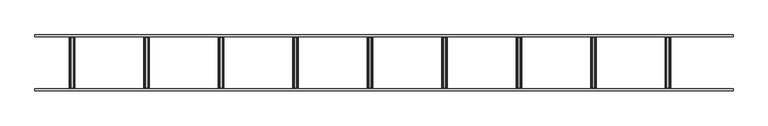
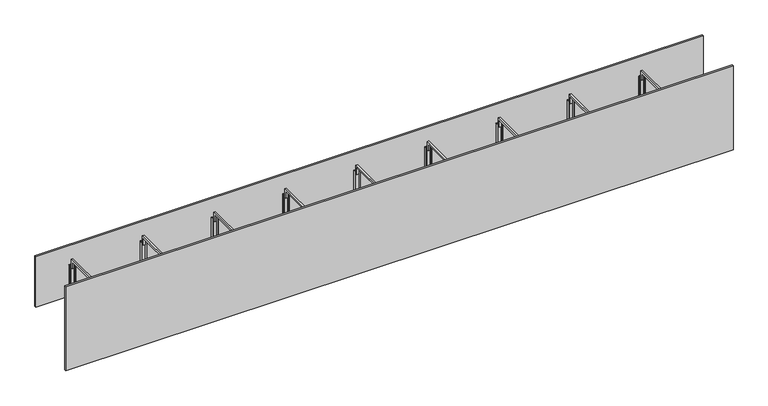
"""IFC4 building model written with IfcOpenShell, lengths in millimetres: proxy geometry, Betobeam AT : -."""

from ifc_helpers import new_model, si_unit, frame, origin, origin_with_axes, place, context, project, spatial, polyline, outline, extrude, faceted_brep, source, transform, mapped, element, save


def generic_models_3c8a262e(model_context):
    return source(origin(), model_context, "Body", "SolidModel", [
        extrude(outline(polyline([(-285.0, 420.0), (-15.0, 420.0), (-15.0, 370.0), (-25.0, 370.0), (-25.0, 410.0), (-275.0, 410.0), (-275.0, 370.0), (-285.0, 370.0), (-285.0, 420.0)])), frame((3395.0, 0.0, 0.0), z_axis=(1.0, 0.0, 0.0), x_axis=(0.0, 1.0, 0.0)), (0.0, 0.0, 1.0), 10.0),
        faceted_brep([(3385.0, -290.0, 390.0), (3415.0, -290.0, 390.0), (3415.0, -275.0, 390.0), (3413.0, -275.0, 390.0), (3413.0, -288.0, 390.0), (3387.0, -288.0, 390.0), (3387.0, -275.0, 390.0), (3385.0, -275.0, 390.0), (3385.0, -275.0, 15.0), (3385.0, -25.0, 15.0), (3385.0, -25.0, 390.0), (3385.0, -10.0, 390.0), (3385.0, -10.0, 0.0), (3385.0, -290.0, 0.0), (3387.0, -275.0, 15.0), (3387.0, -288.0, 2.0), (3387.0, -12.0, 2.0), (3387.0, -12.0, 390.0), (3387.0, -25.0, 390.0), (3387.0, -25.0, 15.0), (3413.0, -288.0, 2.0), (3413.0, -275.0, 15.0), (3413.0, -25.0, 15.0), (3413.0, -25.0, 390.0), (3413.0, -12.0, 390.0), (3413.0, -12.0, 2.0), (3415.0, -275.0, 15.0), (3415.0, -290.0, 0.0), (3415.0, -10.0, 0.0), (3415.0, -10.0, 390.0), (3415.0, -25.0, 390.0), (3415.0, -25.0, 15.0)], [[[0, 1, 2, 3, 4, 5, 6, 7]], [[7, 8, 9, 10, 11, 12, 13, 0]], [[6, 14, 8, 7]], [[5, 15, 16, 17, 18, 19, 14, 6]], [[4, 20, 15, 5]], [[3, 21, 22, 23, 24, 25, 20, 4]], [[2, 26, 21, 3]], [[1, 27, 28, 29, 30, 31, 26, 2]], [[0, 13, 27, 1]], [[14, 19, 9, 8]], [[20, 25, 16, 15]], [[26, 31, 22, 21]], [[13, 12, 28, 27]], [[11, 10, 18, 17, 24, 23, 30, 29]], [[19, 18, 10, 9]], [[25, 24, 17, 16]], [[31, 30, 23, 22]], [[12, 11, 29, 28]]]),
        extrude(outline(polyline([(-285.0, 420.0), (-15.0, 420.0), (-15.0, 370.0), (-25.0, 370.0), (-25.0, 410.0), (-275.0, 410.0), (-275.0, 370.0), (-285.0, 370.0), (-285.0, 420.0)])), frame((2995.0, 0.0, 0.0), z_axis=(1.0, 0.0, 0.0), x_axis=(0.0, 1.0, 0.0)), (0.0, 0.0, 1.0), 10.0),
        faceted_brep([(2985.0, -290.0, 390.0), (3015.0, -290.0, 390.0), (3015.0, -275.0, 390.0), (3013.0, -275.0, 390.0), (3013.0, -288.0, 390.0), (2987.0, -288.0, 390.0), (2987.0, -275.0, 390.0), (2985.0, -275.0, 390.0), (2985.0, -275.0, 15.0), (2985.0, -25.0, 15.0), (2985.0, -25.0, 390.0), (2985.0, -10.0, 390.0), (2985.0, -10.0, 0.0), (2985.0, -290.0, 0.0), (2987.0, -275.0, 15.0), (2987.0, -288.0, 2.0), (2987.0, -12.0, 2.0), (2987.0, -12.0, 390.0), (2987.0, -25.0, 390.0), (2987.0, -25.0, 15.0), (3013.0, -288.0, 2.0), (3013.0, -275.0, 15.0), (3013.0, -25.0, 15.0), (3013.0, -25.0, 390.0), (3013.0, -12.0, 390.0), (3013.0, -12.0, 2.0), (3015.0, -275.0, 15.0), (3015.0, -290.0, 0.0), (3015.0, -10.0, 0.0), (3015.0, -10.0, 390.0), (3015.0, -25.0, 390.0), (3015.0, -25.0, 15.0)], [[[0, 1, 2, 3, 4, 5, 6, 7]], [[7, 8, 9, 10, 11, 12, 13, 0]], [[6, 14, 8, 7]], [[5, 15, 16, 17, 18, 19, 14, 6]], [[4, 20, 15, 5]], [[3, 21, 22, 23, 24, 25, 20, 4]], [[2, 26, 21, 3]], [[1, 27, 28, 29, 30, 31, 26, 2]], [[0, 13, 27, 1]], [[14, 19, 9, 8]], [[20, 25, 16, 15]], [[26, 31, 22, 21]], [[13, 12, 28, 27]], [[11, 10, 18, 17, 24, 23, 30, 29]], [[19, 18, 10, 9]], [[25, 24, 17, 16]], [[31, 30, 23, 22]], [[12, 11, 29, 28]]]),
        extrude(outline(polyline([(-285.0, 420.0), (-15.0, 420.0), (-15.0, 370.0), (-25.0, 370.0), (-25.0, 410.0), (-275.0, 410.0), (-275.0, 370.0), (-285.0, 370.0), (-285.0, 420.0)])), frame((2595.0, 0.0, 0.0), z_axis=(1.0, 0.0, 0.0), x_axis=(0.0, 1.0, 0.0)), (0.0, 0.0, 1.0), 10.0),
        faceted_brep([(2585.0, -290.0, 390.0), (2615.0, -290.0, 390.0), (2615.0, -275.0, 390.0), (2613.0, -275.0, 390.0), (2613.0, -288.0, 390.0), (2587.0, -288.0, 390.0), (2587.0, -275.0, 390.0), (2585.0, -275.0, 390.0), (2585.0, -275.0, 15.0), (2585.0, -25.0, 15.0), (2585.0, -25.0, 390.0), (2585.0, -10.0, 390.0), (2585.0, -10.0, 0.0), (2585.0, -290.0, 0.0), (2587.0, -275.0, 15.0), (2587.0, -288.0, 2.0), (2587.0, -12.0, 2.0), (2587.0, -12.0, 390.0), (2587.0, -25.0, 390.0), (2587.0, -25.0, 15.0), (2613.0, -288.0, 2.0), (2613.0, -275.0, 15.0), (2613.0, -25.0, 15.0), (2613.0, -25.0, 390.0), (2613.0, -12.0, 390.0), (2613.0, -12.0, 2.0), (2615.0, -275.0, 15.0), (2615.0, -290.0, 0.0), (2615.0, -10.0, 0.0), (2615.0, -10.0, 390.0), (2615.0, -25.0, 390.0), (2615.0, -25.0, 15.0)], [[[0, 1, 2, 3, 4, 5, 6, 7]], [[7, 8, 9, 10, 11, 12, 13, 0]], [[6, 14, 8, 7]], [[5, 15, 16, 17, 18, 19, 14, 6]], [[4, 20, 15, 5]], [[3, 21, 22, 23, 24, 25, 20, 4]], [[2, 26, 21, 3]], [[1, 27, 28, 29, 30, 31, 26, 2]], [[0, 13, 27, 1]], [[14, 19, 9, 8]], [[20, 25, 16, 15]], [[26, 31, 22, 21]], [[13, 12, 28, 27]], [[11, 10, 18, 17, 24, 23, 30, 29]], [[19, 18, 10, 9]], [[25, 24, 17, 16]], [[31, 30, 23, 22]], [[12, 11, 29, 28]]]),
        extrude(outline(polyline([(-285.0, 420.0), (-15.0, 420.0), (-15.0, 370.0), (-25.0, 370.0), (-25.0, 410.0), (-275.0, 410.0), (-275.0, 370.0), (-285.0, 370.0), (-285.0, 420.0)])), frame((2195.0, 0.0, 0.0), z_axis=(1.0, 0.0, 0.0), x_axis=(0.0, 1.0, 0.0)), (0.0, 0.0, 1.0), 10.0),
        faceted_brep([(2185.0, -290.0, 390.0), (2215.0, -290.0, 390.0), (2215.0, -275.0, 390.0), (2213.0, -275.0, 390.0), (2213.0, -288.0, 390.0), (2187.0, -288.0, 390.0), (2187.0, -275.0, 390.0), (2185.0, -275.0, 390.0), (2185.0, -275.0, 15.0), (2185.0, -25.0, 15.0), (2185.0, -25.0, 390.0), (2185.0, -10.0, 390.0), (2185.0, -10.0, 0.0), (2185.0, -290.0, 0.0), (2187.0, -275.0, 15.0), (2187.0, -288.0, 2.0), (2187.0, -12.0, 2.0), (2187.0, -12.0, 390.0), (2187.0, -25.0, 390.0), (2187.0, -25.0, 15.0), (2213.0, -288.0, 2.0), (2213.0, -275.0, 15.0), (2213.0, -25.0, 15.0), (2213.0, -25.0, 390.0), (2213.0, -12.0, 390.0), (2213.0, -12.0, 2.0), (2215.0, -275.0, 15.0), (2215.0, -290.0, 0.0), (2215.0, -10.0, 0.0), (2215.0, -10.0, 390.0), (2215.0, -25.0, 390.0), (2215.0, -25.0, 15.0)], [[[0, 1, 2, 3, 4, 5, 6, 7]], [[7, 8, 9, 10, 11, 12, 13, 0]], [[6, 14, 8, 7]], [[5, 15, 16, 17, 18, 19, 14, 6]], [[4, 20, 15, 5]], [[3, 21, 22, 23, 24, 25, 20, 4]], [[2, 26, 21, 3]], [[1, 27, 28, 29, 30, 31, 26, 2]], [[0, 13, 27, 1]], [[14, 19, 9, 8]], [[20, 25, 16, 15]], [[26, 31, 22, 21]], [[13, 12, 28, 27]], [[11, 10, 18, 17, 24, 23, 30, 29]], [[19, 18, 10, 9]], [[25, 24, 17, 16]], [[31, 30, 23, 22]], [[12, 11, 29, 28]]]),
        extrude(outline(polyline([(-285.0, 420.0), (-15.0, 420.0), (-15.0, 370.0), (-25.0, 370.0), (-25.0, 410.0), (-275.0, 410.0), (-275.0, 370.0), (-285.0, 370.0), (-285.0, 420.0)])), frame((1795.0, 0.0, 0.0), z_axis=(1.0, 0.0, 0.0), x_axis=(0.0, 1.0, 0.0)), (0.0, 0.0, 1.0), 10.0),
        faceted_brep([(1785.0, -290.0, 390.0), (1815.0, -290.0, 390.0), (1815.0, -275.0, 390.0), (1813.0, -275.0, 390.0), (1813.0, -288.0, 390.0), (1787.0, -288.0, 390.0), (1787.0, -275.0, 390.0), (1785.0, -275.0, 390.0), (1785.0, -275.0, 15.0), (1785.0, -25.0, 15.0), (1785.0, -25.0, 390.0), (1785.0, -10.0, 390.0), (1785.0, -10.0, 0.0), (1785.0, -290.0, 0.0), (1787.0, -275.0, 15.0), (1787.0, -288.0, 2.0), (1787.0, -12.0, 2.0), (1787.0, -12.0, 390.0), (1787.0, -25.0, 390.0), (1787.0, -25.0, 15.0), (1813.0, -288.0, 2.0), (1813.0, -275.0, 15.0), (1813.0, -25.0, 15.0), (1813.0, -25.0, 390.0), (1813.0, -12.0, 390.0), (1813.0, -12.0, 2.0), (1815.0, -275.0, 15.0), (1815.0, -290.0, 0.0), (1815.0, -10.0, 0.0), (1815.0, -10.0, 390.0), (1815.0, -25.0, 390.0), (1815.0, -25.0, 15.0)], [[[0, 1, 2, 3, 4, 5, 6, 7]], [[7, 8, 9, 10, 11, 12, 13, 0]], [[6, 14, 8, 7]], [[5, 15, 16, 17, 18, 19, 14, 6]], [[4, 20, 15, 5]], [[3, 21, 22, 23, 24, 25, 20, 4]], [[2, 26, 21, 3]], [[1, 27, 28, 29, 30, 31, 26, 2]], [[0, 13, 27, 1]], [[14, 19, 9, 8]], [[20, 25, 16, 15]], [[26, 31, 22, 21]], [[13, 12, 28, 27]], [[11, 10, 18, 17, 24, 23, 30, 29]], [[19, 18, 10, 9]], [[25, 24, 17, 16]], [[31, 30, 23, 22]], [[12, 11, 29, 28]]]),
        extrude(outline(polyline([(-285.0, 420.0), (-15.0, 420.0), (-15.0, 370.0), (-25.0, 370.0), (-25.0, 410.0), (-275.0, 410.0), (-275.0, 370.0), (-285.0, 370.0), (-285.0, 420.0)])), frame((1395.0, 0.0, 0.0), z_axis=(1.0, 0.0, 0.0), x_axis=(0.0, 1.0, 0.0)), (0.0, 0.0, 1.0), 10.0),
        faceted_brep([(1385.0, -290.0, 390.0), (1415.0, -290.0, 390.0), (1415.0, -275.0, 390.0), (1413.0, -275.0, 390.0), (1413.0, -288.0, 390.0), (1387.0, -288.0, 390.0), (1387.0, -275.0, 390.0), (1385.0, -275.0, 390.0), (1385.0, -275.0, 15.0), (1385.0, -25.0, 15.0), (1385.0, -25.0, 390.0), (1385.0, -10.0, 390.0), (1385.0, -10.0, 0.0), (1385.0, -290.0, 0.0), (1387.0, -275.0, 15.0), (1387.0, -288.0, 2.0), (1387.0, -12.0, 2.0), (1387.0, -12.0, 390.0), (1387.0, -25.0, 390.0), (1387.0, -25.0, 15.0), (1413.0, -288.0, 2.0), (1413.0, -275.0, 15.0), (1413.0, -25.0, 15.0), (1413.0, -25.0, 390.0), (1413.0, -12.0, 390.0), (1413.0, -12.0, 2.0), (1415.0, -275.0, 15.0), (1415.0, -290.0, 0.0), (1415.0, -10.0, 0.0), (1415.0, -10.0, 390.0), (1415.0, -25.0, 390.0), (1415.0, -25.0, 15.0)], [[[0, 1, 2, 3, 4, 5, 6, 7]], [[7, 8, 9, 10, 11, 12, 13, 0]], [[6, 14, 8, 7]], [[5, 15, 16, 17, 18, 19, 14, 6]], [[4, 20, 15, 5]], [[3, 21, 22, 23, 24, 25, 20, 4]], [[2, 26, 21, 3]], [[1, 27, 28, 29, 30, 31, 26, 2]], [[0, 13, 27, 1]], [[14, 19, 9, 8]], [[20, 25, 16, 15]], [[26, 31, 22, 21]], [[13, 12, 28, 27]], [[11, 10, 18, 17, 24, 23, 30, 29]], [[19, 18, 10, 9]], [[25, 24, 17, 16]], [[31, 30, 23, 22]], [[12, 11, 29, 28]]]),
        extrude(outline(polyline([(-285.0, 420.0), (-15.0, 420.0), (-15.0, 370.0), (-25.0, 370.0), (-25.0, 410.0), (-275.0, 410.0), (-275.0, 370.0), (-285.0, 370.0), (-285.0, 420.0)])), frame((995.0, 0.0, 0.0), z_axis=(1.0, 0.0, 0.0), x_axis=(0.0, 1.0, 0.0)), (0.0, 0.0, 1.0), 10.0),
        faceted_brep([(985.0, -290.0, 390.0), (1015.0, -290.0, 390.0), (1015.0, -275.0, 390.0), (1013.0, -275.0, 390.0), (1013.0, -288.0, 390.0), (987.0, -288.0, 390.0), (987.0, -275.0, 390.0), (985.0, -275.0, 390.0), (985.0, -275.0, 15.0), (985.0, -25.0, 15.0), (985.0, -25.0, 390.0), (985.0, -10.0, 390.0), (985.0, -10.0, 0.0), (985.0, -290.0, 0.0), (987.0, -275.0, 15.0), (987.0, -288.0, 2.0), (987.0, -12.0, 2.0), (987.0, -12.0, 390.0), (987.0, -25.0, 390.0), (987.0, -25.0, 15.0), (1013.0, -288.0, 2.0), (1013.0, -275.0, 15.0), (1013.0, -25.0, 15.0), (1013.0, -25.0, 390.0), (1013.0, -12.0, 390.0), (1013.0, -12.0, 2.0), (1015.0, -275.0, 15.0), (1015.0, -290.0, 0.0), (1015.0, -10.0, 0.0), (1015.0, -10.0, 390.0), (1015.0, -25.0, 390.0), (1015.0, -25.0, 15.0)], [[[0, 1, 2, 3, 4, 5, 6, 7]], [[7, 8, 9, 10, 11, 12, 13, 0]], [[6, 14, 8, 7]], [[5, 15, 16, 17, 18, 19, 14, 6]], [[4, 20, 15, 5]], [[3, 21, 22, 23, 24, 25, 20, 4]], [[2, 26, 21, 3]], [[1, 27, 28, 29, 30, 31, 26, 2]], [[0, 13, 27, 1]], [[14, 19, 9, 8]], [[20, 25, 16, 15]], [[26, 31, 22, 21]], [[13, 12, 28, 27]], [[11, 10, 18, 17, 24, 23, 30, 29]], [[19, 18, 10, 9]], [[25, 24, 17, 16]], [[31, 30, 23, 22]], [[12, 11, 29, 28]]]),
        extrude(outline(polyline([(-285.0, 420.0), (-15.0, 420.0), (-15.0, 370.0), (-25.0, 370.0), (-25.0, 410.0), (-275.0, 410.0), (-275.0, 370.0), (-285.0, 370.0), (-285.0, 420.0)])), frame((595.0, 0.0, 0.0), z_axis=(1.0, 0.0, 0.0), x_axis=(0.0, 1.0, 0.0)), (0.0, 0.0, 1.0), 10.0),
        faceted_brep([(585.0, -290.0, 390.0), (615.0, -290.0, 390.0), (615.0, -275.0, 390.0), (613.0, -275.0, 390.0), (613.0, -288.0, 390.0), (587.0, -288.0, 390.0), (587.0, -275.0, 390.0), (585.0, -275.0, 390.0), (585.0, -275.0, 15.0), (585.0, -25.0, 15.0), (585.0, -25.0, 390.0), (585.0, -10.0, 390.0), (585.0, -10.0, 0.0), (585.0, -290.0, 0.0), (587.0, -275.0, 15.0), (587.0, -288.0, 2.0), (587.0, -12.0, 2.0), (587.0, -12.0, 390.0), (587.0, -25.0, 390.0), (587.0, -25.0, 15.0), (613.0, -288.0, 2.0), (613.0, -275.0, 15.0), (613.0, -25.0, 15.0), (613.0, -25.0, 390.0), (613.0, -12.0, 390.0), (613.0, -12.0, 2.0), (615.0, -275.0, 15.0), (615.0, -290.0, 0.0), (615.0, -10.0, 0.0), (615.0, -10.0, 390.0), (615.0, -25.0, 390.0), (615.0, -25.0, 15.0)], [[[0, 1, 2, 3, 4, 5, 6, 7]], [[7, 8, 9, 10, 11, 12, 13, 0]], [[6, 14, 8, 7]], [[5, 15, 16, 17, 18, 19, 14, 6]], [[4, 20, 15, 5]], [[3, 21, 22, 23, 24, 25, 20, 4]], [[2, 26, 21, 3]], [[1, 27, 28, 29, 30, 31, 26, 2]], [[0, 13, 27, 1]], [[14, 19, 9, 8]], [[20, 25, 16, 15]], [[26, 31, 22, 21]], [[13, 12, 28, 27]], [[11, 10, 18, 17, 24, 23, 30, 29]], [[19, 18, 10, 9]], [[25, 24, 17, 16]], [[31, 30, 23, 22]], [[12, 11, 29, 28]]]),
        extrude(outline(polyline([(-285.0, 420.0), (-15.0, 420.0), (-15.0, 370.0), (-25.0, 370.0), (-25.0, 410.0), (-275.0, 410.0), (-275.0, 370.0), (-285.0, 370.0), (-285.0, 420.0)])), frame((195.0, 0.0, 0.0), z_axis=(1.0, 0.0, 0.0), x_axis=(0.0, 1.0, 0.0)), (0.0, 0.0, 1.0), 10.0),
        faceted_brep([(185.0, -290.0, 390.0), (215.0, -290.0, 390.0), (215.0, -275.0, 390.0), (213.0, -275.0, 390.0), (213.0, -288.0, 390.0), (187.0, -288.0, 390.0), (187.0, -275.0, 390.0), (185.0, -275.0, 390.0), (185.0, -275.0, 15.0), (185.0, -25.0, 15.0), (185.0, -25.0, 390.0), (185.0, -10.0, 390.0), (185.0, -10.0, 0.0), (185.0, -290.0, 0.0), (187.0, -275.0, 15.0), (187.0, -288.0, 2.0), (187.0, -12.0, 2.0), (187.0, -12.0, 390.0), (187.0, -25.0, 390.0), (187.0, -25.0, 15.0), (213.0, -288.0, 2.0), (213.0, -275.0, 15.0), (213.0, -25.0, 15.0), (213.0, -25.0, 390.0), (213.0, -12.0, 390.0), (213.0, -12.0, 2.0), (215.0, -275.0, 15.0), (215.0, -290.0, 0.0), (215.0, -10.0, 0.0), (215.0, -10.0, 390.0), (215.0, -25.0, 390.0), (215.0, -25.0, 15.0)], [[[0, 1, 2, 3, 4, 5, 6, 7]], [[7, 8, 9, 10, 11, 12, 13, 0]], [[6, 14, 8, 7]], [[5, 15, 16, 17, 18, 19, 14, 6]], [[4, 20, 15, 5]], [[3, 21, 22, 23, 24, 25, 20, 4]], [[2, 26, 21, 3]], [[1, 27, 28, 29, 30, 31, 26, 2]], [[0, 13, 27, 1]], [[14, 19, 9, 8]], [[20, 25, 16, 15]], [[26, 31, 22, 21]], [[13, 12, 28, 27]], [[11, 10, 18, 17, 24, 23, 30, 29]], [[19, 18, 10, 9]], [[25, 24, 17, 16]], [[31, 30, 23, 22]], [[12, 11, 29, 28]]]),
        extrude(outline(polyline([(3750.0, -10.0), (0.0, -10.0), (0.0, 0.0), (3750.0, 0.0), (3750.0, -10.0)])), frame((0.0, 0.0, 200.0), z_axis=(0.0, 0.0, 1.0), x_axis=(1.0, 0.0, 0.0)), (0.0, 0.0, 1.0), 300.0),
        extrude(outline(polyline([(3750.0, -300.0), (0.0, -300.0), (0.0, -290.0), (3750.0, -290.0), (3750.0, -300.0)])), origin_with_axes(), (0.0, 0.0, 1.0), 500.0),
    ])


if __name__ == "__main__":
    model = new_model("IFC4")
    model_context = context("Model", 3, world=origin())
    ifc_project = project(units=[si_unit("LENGTHUNIT", "METRE", prefix="MILLI")], contexts=[model_context])
    site = spatial("IfcSite", under=ifc_project)
    building = spatial("IfcBuilding", under=site)
    placement = place(None, origin())
    generic_models_shape = generic_models_3c8a262e(model_context)
    element("IfcBuildingElementProxy", 1, Name="Betobeam AT : -", ObjectType="Betobeam AT : -", at=placement, inside=building, context=model_context, shape_type="MappedRepresentation", body=[
        mapped(generic_models_shape, transform((0.0, 0.0, 0.0), x_axis=(1.0, 0.0, 0.0), y_axis=(0.0, 1.0, 0.0), z_axis=(0.0, 0.0, 1.0))),
    ])
    save(model, "model.ifc")
